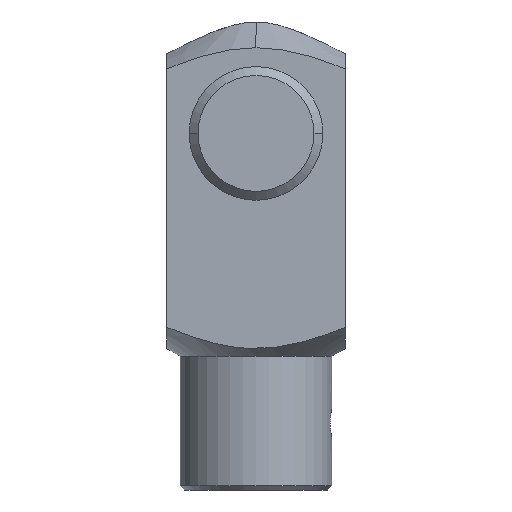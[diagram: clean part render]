
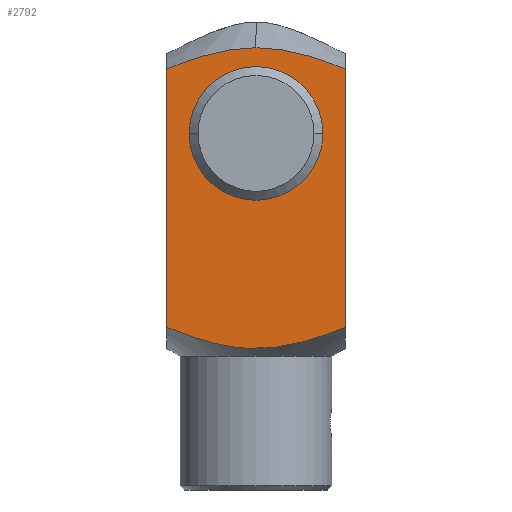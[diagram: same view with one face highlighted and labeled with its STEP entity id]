
A CAD part, left-side view. The second image highlights one B-rep face of the part: STEP entity #2792.
In plain terms, the highlighted planar face has unit normal (-1, 0, 0).
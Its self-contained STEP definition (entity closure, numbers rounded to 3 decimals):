
#17 = CARTESIAN_POINT ( 'NONE',  ( -20., 10., 258. ) ) ;
#197 = VERTEX_POINT ( 'NONE', #1051 ) ;
#232 = VERTEX_POINT ( 'NONE', #1060 ) ;
#309 = ORIENTED_EDGE ( 'NONE', *, *, #2310, .T. ) ;
#321 = EDGE_CURVE ( 'NONE', #2745, #232, #1207, .T. ) ;
#340 = DIRECTION ( 'NONE',  ( 1., 0., 0. ) ) ;
#374 = DIRECTION ( 'NONE',  ( 0., 1., 0. ) ) ;
#393 = CARTESIAN_POINT ( 'NONE',  ( -20., 8.284, 277.227 ) ) ;
#409 = CARTESIAN_POINT ( 'NONE',  ( -20., 20., 214.515 ) ) ;
#461 = VERTEX_POINT ( 'NONE', #17 ) ;
#536 = CARTESIAN_POINT ( 'NONE',  ( -20., 20., 214.515 ) ) ;
#605 = VERTEX_POINT ( 'NONE', #3059 ) ;
#614 = DIRECTION ( 'NONE',  ( 1., 0., 0. ) ) ;
#676 = CARTESIAN_POINT ( 'NONE',  ( -20., -20., 214.515 ) ) ;
#685 = CARTESIAN_POINT ( 'NONE',  ( -20., 20., 208. ) ) ;
#861 = DIRECTION ( 'NONE',  ( 0., 1., 0. ) ) ;
#958 = EDGE_LOOP ( 'NONE', ( #309, #2534, #2346, #1373, #2664 ) ) ;
#969 = DIRECTION ( 'NONE',  ( 0., 0., 1. ) ) ;
#1028 = VECTOR ( 'NONE', #3066, 1000. ) ;
#1046 = CARTESIAN_POINT ( 'NONE',  ( -20., -20., 272.444 ) ) ;
#1051 = CARTESIAN_POINT ( 'NONE',  ( -20., -10., 258. ) ) ;
#1060 = CARTESIAN_POINT ( 'NONE',  ( -20., 0., 277.227 ) ) ;
#1133 = ORIENTED_EDGE ( 'NONE', *, *, #1356, .T. ) ;
#1207 =( BOUNDED_CURVE ( )  B_SPLINE_CURVE ( 2, ( #3043, #1274, #2230 ),
 .UNSPECIFIED., .F., .T. ) 
 B_SPLINE_CURVE_WITH_KNOTS ( ( 3, 3 ),
 ( 1.032, 3.651 ),
 .UNSPECIFIED. ) 
 CURVE ( )  GEOMETRIC_REPRESENTATION_ITEM ( )  RATIONAL_B_SPLINE_CURVE ( ( 1.243, 1.5, 1.5 ) ) 
 REPRESENTATION_ITEM ( '' )  );
#1261 = EDGE_CURVE ( 'NONE', #197, #461, #2595, .T. ) ;
#1274 = CARTESIAN_POINT ( 'NONE',  ( -20., -8.284, 277.227 ) ) ;
#1356 = EDGE_CURVE ( 'NONE', #461, #197, #2336, .T. ) ;
#1373 = ORIENTED_EDGE ( 'NONE', *, *, #2864, .T. ) ;
#1442 = AXIS2_PLACEMENT_3D ( 'NONE', #2909, #614, #1882 ) ;
#1456 = EDGE_LOOP ( 'NONE', ( #1133, #2326 ) ) ;
#1552 = CARTESIAN_POINT ( 'NONE',  ( -20., -20., 214.515 ) ) ;
#1586 = EDGE_CURVE ( 'NONE', #1905, #2745, #2232, .T. ) ;
#1600 = CARTESIAN_POINT ( 'NONE',  ( -20., -20., 208. ) ) ;
#1639 = CARTESIAN_POINT ( 'NONE',  ( -20., 0., 277.227 ) ) ;
#1847 = FACE_OUTER_BOUND ( 'NONE', #958, .T. ) ;
#1864 = DIRECTION ( 'NONE',  ( -1., 0., 0. ) ) ;
#1882 = DIRECTION ( 'NONE',  ( 0., 1., 0. ) ) ;
#1905 = VERTEX_POINT ( 'NONE', #676 ) ;
#2039 = AXIS2_PLACEMENT_3D ( 'NONE', #1600, #1864, #374 ) ;
#2088 = CARTESIAN_POINT ( 'NONE',  ( -20., 0., 258. ) ) ;
#2151 = FACE_BOUND ( 'NONE', #1456, .T. ) ;
#2165 =( BOUNDED_CURVE ( )  B_SPLINE_CURVE ( 2, ( #536, #2265, #1552 ),
 .UNSPECIFIED., .F., .T. ) 
 B_SPLINE_CURVE_WITH_KNOTS ( ( 3, 3 ),
 ( 0.581, 5.296 ),
 .UNSPECIFIED. ) 
 CURVE ( )  GEOMETRIC_REPRESENTATION_ITEM ( )  RATIONAL_B_SPLINE_CURVE ( ( 1.13, 1.597, 1.13 ) ) 
 REPRESENTATION_ITEM ( '' )  );
#2206 = CARTESIAN_POINT ( 'NONE',  ( -20., -20., 208. ) ) ;
#2230 = CARTESIAN_POINT ( 'NONE',  ( -20., 0., 277.227 ) ) ;
#2232 = LINE ( 'NONE', #2206, #2688 ) ;
#2265 = CARTESIAN_POINT ( 'NONE',  ( -20., 0., 206.35 ) ) ;
#2291 = EDGE_CURVE ( 'NONE', #2865, #605, #2915, .T. ) ;
#2310 = EDGE_CURVE ( 'NONE', #2865, #1905, #2165, .T. ) ;
#2326 = ORIENTED_EDGE ( 'NONE', *, *, #1261, .T. ) ;
#2336 = CIRCLE ( 'NONE', #1442, 10. ) ;
#2346 = ORIENTED_EDGE ( 'NONE', *, *, #321, .T. ) ;
#2398 = CARTESIAN_POINT ( 'NONE',  ( -20., 20., 272.444 ) ) ;
#2534 = ORIENTED_EDGE ( 'NONE', *, *, #1586, .T. ) ;
#2595 = CIRCLE ( 'NONE', #2957, 10. ) ;
#2664 = ORIENTED_EDGE ( 'NONE', *, *, #2291, .F. ) ;
#2688 = VECTOR ( 'NONE', #969, 1000. ) ;
#2745 = VERTEX_POINT ( 'NONE', #1046 ) ;
#2792 = ADVANCED_FACE ( 'NONE', ( #2151, #1847 ), #3128, .T. ) ;
#2864 = EDGE_CURVE ( 'NONE', #232, #605, #2955, .T. ) ;
#2865 = VERTEX_POINT ( 'NONE', #409 ) ;
#2909 = CARTESIAN_POINT ( 'NONE',  ( -20., 0., 258. ) ) ;
#2915 = LINE ( 'NONE', #685, #1028 ) ;
#2955 =( BOUNDED_CURVE ( )  B_SPLINE_CURVE ( 2, ( #1639, #393, #2398 ),
 .UNSPECIFIED., .F., .F. ) 
 B_SPLINE_CURVE_WITH_KNOTS ( ( 3, 3 ),
 ( 3.651, 6.271 ),
 .UNSPECIFIED. ) 
 CURVE ( )  GEOMETRIC_REPRESENTATION_ITEM ( )  RATIONAL_B_SPLINE_CURVE ( ( 1.5, 1.5, 1.243 ) ) 
 REPRESENTATION_ITEM ( '' )  );
#2957 = AXIS2_PLACEMENT_3D ( 'NONE', #2088, #340, #861 ) ;
#3043 = CARTESIAN_POINT ( 'NONE',  ( -20., -20., 272.444 ) ) ;
#3059 = CARTESIAN_POINT ( 'NONE',  ( -20., 20., 272.444 ) ) ;
#3066 = DIRECTION ( 'NONE',  ( 0., 0., 1. ) ) ;
#3128 = PLANE ( 'NONE',  #2039 ) ;
